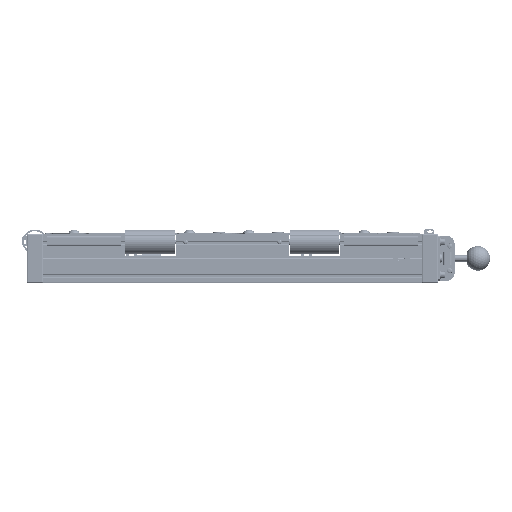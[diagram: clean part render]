
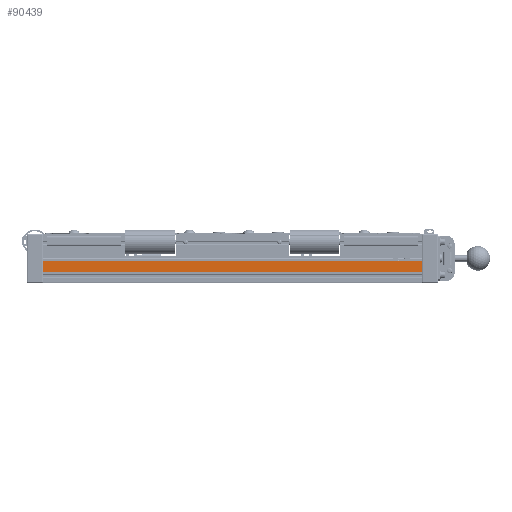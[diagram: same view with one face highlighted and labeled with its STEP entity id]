
A CAD part, front view. The second image highlights one B-rep face of the part: STEP entity #90439.
In plain terms, the highlighted planar face has unit normal (0, -1, 0) as drawn and (1, 0, 0) by its records, which use the part's own axes.
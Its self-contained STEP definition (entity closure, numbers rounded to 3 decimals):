
#9273=FACE_OUTER_BOUND('',#14083,.T.);
#14083=EDGE_LOOP('',(#62483,#62484,#62485,#62486));
#20176=LINE('',#131664,#29705);
#20177=LINE('',#131668,#29706);
#20178=LINE('',#131670,#29707);
#20179=LINE('',#131671,#29708);
#29705=VECTOR('',#105620,10.);
#29706=VECTOR('',#105625,10.);
#29707=VECTOR('',#105626,10.);
#29708=VECTOR('',#105627,10.);
#39130=VERTEX_POINT('',#131661);
#39131=VERTEX_POINT('',#131663);
#39132=VERTEX_POINT('',#131667);
#39133=VERTEX_POINT('',#131669);
#48425=EDGE_CURVE('',#39131,#39130,#20176,.T.);
#48427=EDGE_CURVE('',#39130,#39132,#20177,.T.);
#48428=EDGE_CURVE('',#39133,#39132,#20178,.T.);
#48429=EDGE_CURVE('',#39131,#39133,#20179,.T.);
#62483=ORIENTED_EDGE('',*,*,#48427,.T.);
#62484=ORIENTED_EDGE('',*,*,#48428,.F.);
#62485=ORIENTED_EDGE('',*,*,#48429,.F.);
#62486=ORIENTED_EDGE('',*,*,#48425,.T.);
#87235=PLANE('',#96183);
#90439=ADVANCED_FACE('',(#9273),#87235,.T.);
#96183=AXIS2_PLACEMENT_3D('',#131666,#105623,#105624);
#105620=DIRECTION('',(0.,0.,-1.));
#105623=DIRECTION('center_axis',(1.,0.,0.));
#105624=DIRECTION('ref_axis',(0.,0.,-1.));
#105625=DIRECTION('',(0.,1.,0.));
#105626=DIRECTION('',(0.,0.,-1.));
#105627=DIRECTION('',(0.,1.,0.));
#131661=CARTESIAN_POINT('',(10.,-16.7,-460.));
#131663=CARTESIAN_POINT('',(10.,-16.7,0.));
#131664=CARTESIAN_POINT('',(10.,-16.7,0.));
#131666=CARTESIAN_POINT('Origin',(10.,-16.7,0.));
#131667=CARTESIAN_POINT('',(10.,-3.3,-460.));
#131668=CARTESIAN_POINT('',(10.,-16.7,-460.));
#131669=CARTESIAN_POINT('',(10.,-3.3,0.));
#131670=CARTESIAN_POINT('',(10.,-3.3,0.));
#131671=CARTESIAN_POINT('',(10.,-16.7,0.));
